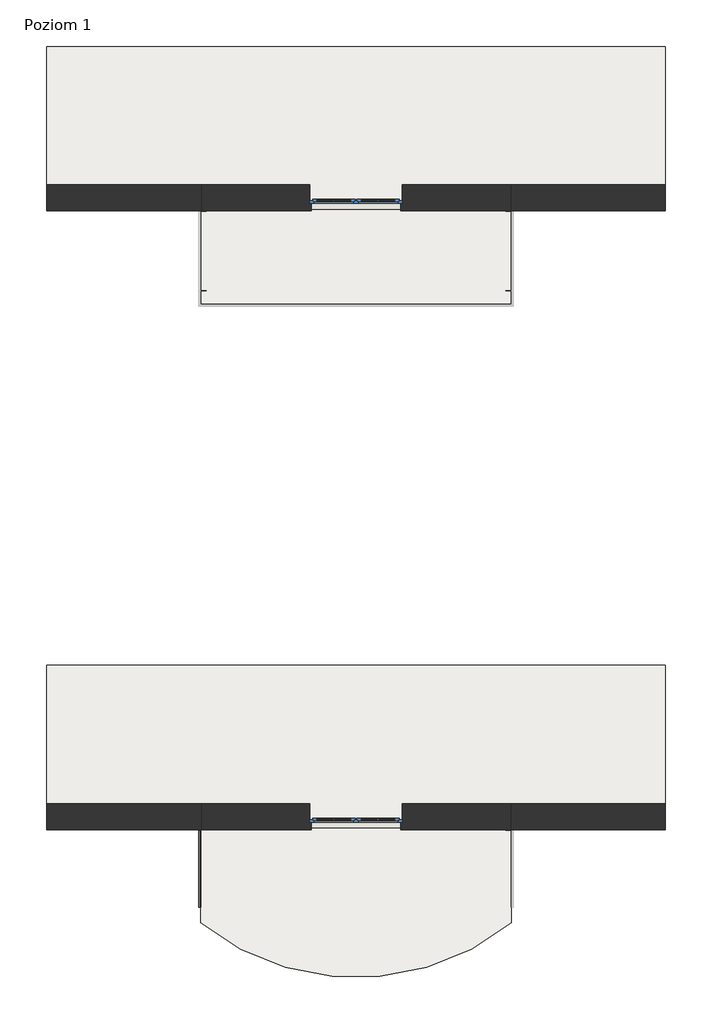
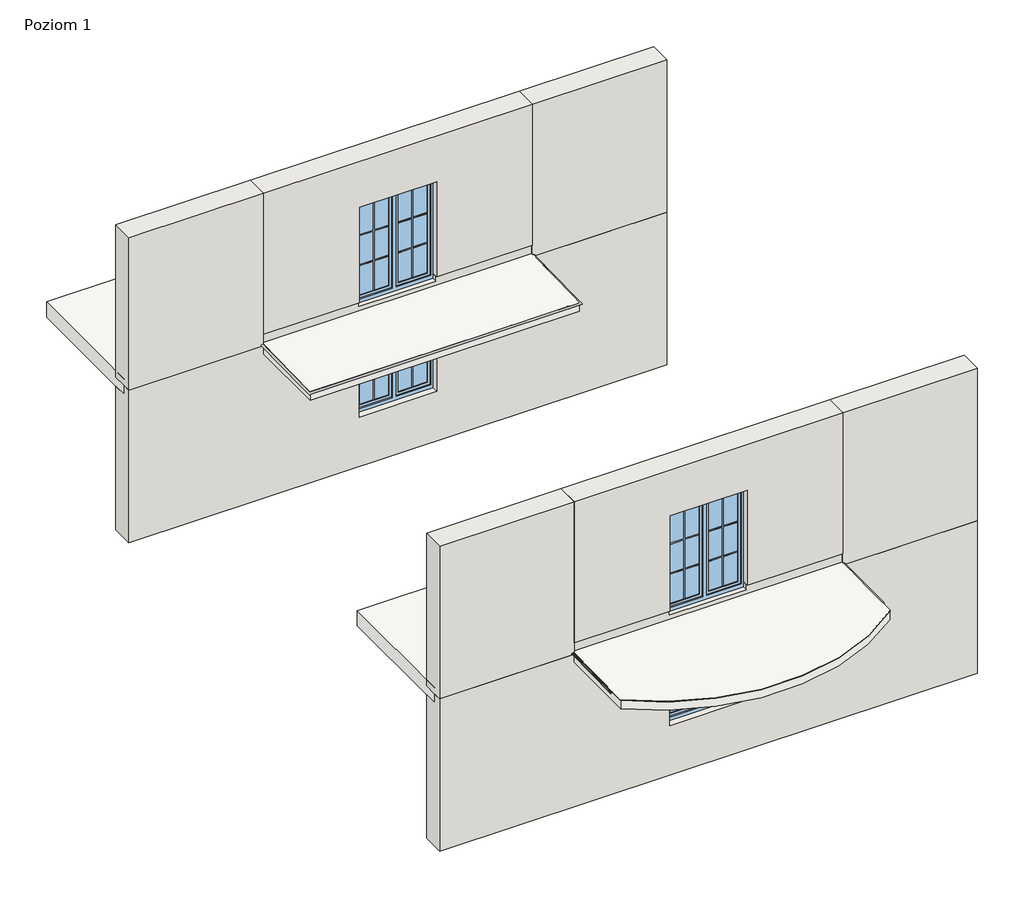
# One storey, part 1 of 3: 10 walls, 6 slabs, 4 windows, 2 proxies.
"""IFC4 building model written with IfcOpenShell, lengths in millimetres."""

from ifc_helpers import new_model, si_unit, frame, origin, place, context, project, spatial, circle_curve, ellipse_curve, faceted_brep, transform, mapped, element, save
from ifc_brep_helpers import plane_surface, cylinder_surface, advanced_brep
from components import generic_models_eb490aad, k20_d56da928, window_150x150_51b7f79a, window_150x150_14e0f4ea, window_150x200_12b14935

model = new_model("IFC4")

# Units and contexts
model_context = context("Model", 3, world=origin())
ifc_project = project(units=[si_unit("LENGTHUNIT", "METRE", prefix="MILLI")], contexts=[model_context])

# Site, building, storey
site = spatial("IfcSite", under=ifc_project)
building = spatial("IfcBuilding", under=site)
storey = spatial("IfcBuildingStorey", under=building, Name="Poziom 1", Elevation=0.0)

# Proxies
placement = place(None, origin())
generic_models_shape = generic_models_eb490aad(model_context)
element("IfcBuildingElementProxy", 1, Name="Odbojnik - OPK20 : Odbojnik - OPK20", ObjectType="Odbojnik - OPK20 : Odbojnik - OPK20", at=placement, inside=storey, context=model_context, shape_type="MappedRepresentation", body=[
    mapped(generic_models_shape, transform((-91537.1933858, 22534.66124, -111.2718009), x_axis=(0.0, 0.9999253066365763, 0.012222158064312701), y_axis=(-1.0, 0.0, 0.0), z_axis=(0.0, -0.01222215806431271, 0.9999253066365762))),
])
k20_shape = k20_d56da928(model_context)
element("IfcBuildingElementProxy", 2, Name="K20 Profil okapowy prosty : K20", ObjectType="K20 Profil okapowy prosty : K20", at=placement, inside=storey, context=model_context, shape_type="MappedRepresentation", body=[
    mapped(k20_shape, transform((-91521.1936807, 21282.6125324, -98.6569121), x_axis=(0.0, 0.9999253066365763, 0.012222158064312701), y_axis=(-1.0, 0.0, 0.0), z_axis=(0.0, -0.01222215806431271, 0.9999253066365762))),
])

# Slabs
element("IfcSlab", 3, ObjectType="Balkon - wykończenie - posadzka żywiczna drenażowa", at=placement, inside=storey, context=model_context, shape_type="Brep", body=[
    faceted_brep([(-91521.0897862, 31027.3561559, -125.0), (-91521.0897862, 31027.3561559, -114.0), (-91521.0897862, 32645.3561559, -82.0), (-91521.0897862, 32645.3561559, -93.0), (-91511.0897862, 32645.3561559, -82.0), (-86511.0897862, 32645.3561559, -82.0), (-86501.0897862, 32645.3561559, -82.0), (-86501.0897862, 32645.3561559, -93.0), (-86501.0897862, 31027.3561559, -125.0), (-86501.0897862, 31027.3561559, -114.0)], [[[0, 1, 2, 3]], [[3, 2, 4, 5, 6, 7]], [[8, 9, 1, 0]], [[7, 6, 9, 8]], [[9, 6, 5, 4, 2, 1]], [[8, 0, 3, 7]]]),
])
element("IfcSlab", 4, ObjectType="Balkon - wykończenie - posadzka żywiczna drenażowa", at=placement, inside=storey, context=model_context, shape_type="AdvancedBrep", body=[
    advanced_brep(
    [(-91521.0897862, 22645.3561559, -82.0), (-91521.0897862, 22645.3561559, -93.0), (-91521.0897862, 21032.5560009, -112.7133709), (-91521.0897862, 21032.5560009, -101.7133709), (-91511.0897862, 22645.3561559, -82.0), (-86511.0897862, 22645.3561559, -82.0), (-86501.0897862, 22645.3561559, -82.0), (-86501.0897862, 22645.3561559, -93.0), (-86501.0897862, 21032.5560009, -101.7133709), (-86501.0897862, 21032.5560009, -112.7133709)],
    [
        (0, 1),
        (1, 2),
        (2, 3),
        (3, 0),
        (0, 4),
        (4, 5),
        (5, 6),
        (6, 7),
        (7, 1),
        (6, 8),
        (8, 9),
        (9, 7),
        (3, 8, ellipse_curve(frame((-89011.0897862, 24159.8551551, -63.4881711), z_axis=(0.0, -0.01222215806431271, 0.9999253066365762), x_axis=(0.0, -0.9999253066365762, -0.012222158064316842)), 4010.2995428, 4010.0)),
        (9, 2, ellipse_curve(frame((-89011.0897862, 24159.8551551, -74.4881711), z_axis=(0.0, 0.01222215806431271, -0.9999253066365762), x_axis=(0.0, -0.9999253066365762, -0.012222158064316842)), 4010.2995428, 4010.0)),
    ],
    [
        plane_surface(frame((-91521.0897862, 20027.3561559, -125.0), z_axis=(-1.0, 0.0, 0.0), x_axis=(0.0, 0.0, 1.0))),
        plane_surface(frame((-91521.0897862, 22645.3561559, -125.0), z_axis=(0.0, 1.0, 0.0), x_axis=(0.0, 0.0, 1.0))),
        plane_surface(frame((-86501.0897862, 22645.3561559, -125.0), z_axis=(1.0, 0.0, 0.0), x_axis=(0.0, 0.0, 1.0))),
        plane_surface(frame((-89011.0897862, 21336.3561559, -98.0), z_axis=(0.0, -0.01222215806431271, 0.9999253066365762), x_axis=(0.0, 0.9999253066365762, 0.01222215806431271))),
        plane_surface(frame((-89011.0897862, 21336.3561559, -109.0), z_axis=(0.0, 0.01222215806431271, -0.9999253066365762), x_axis=(0.0, 0.9999253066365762, 0.01222215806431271))),
        cylinder_surface(frame((-89011.0897862, 24159.8551551, -429.8), z_axis=(0.0, 0.0, -1.0), x_axis=(1.0, 0.0, 0.0)), 4010.0),
    ],
    [
        (0, [[1, 2, 3, 4]]),
        (1, [[-1, 5, 6, 7, 8, 9]]),
        (2, [[-8, 10, 11, 12]]),
        (3, [[-7, -6, -5, -4, 13, -10]]),
        (4, [[-9, -12, 14, -2]]),
        (5, [[-3, -14, -11, -13]]),
    ],
),
])
element("IfcSlab", 5, ObjectType="Balkon - konstrukcja", at=placement, inside=storey, context=model_context, shape_type="Brep", body=[
    faceted_brep([(-91511.0897862, 31037.3561559, -285.0), (-91511.0897862, 32537.3561559, -285.0), (-91511.0897862, 32645.3561559, -285.0), (-86511.0897862, 32645.3561559, -285.0), (-86511.0897862, 32537.3561559, -285.0), (-86511.0897862, 31037.3561559, -285.0), (-91511.0897862, 31037.3561559, -125.0), (-91511.0897862, 32645.3561559, -93.0), (-91511.0897862, 32645.3561559, -125.0), (-86511.0897862, 32645.3561559, -93.0), (-86511.0897862, 32645.3561559, -125.0), (-86511.0897862, 31037.3561559, -125.0)], [[[0, 1, 2, 3, 4, 5]], [[2, 1, 0, 6, 7, 8]], [[3, 2, 8, 7, 9, 10]], [[0, 5, 11, 6]], [[5, 4, 3, 10, 9, 11]], [[11, 9, 7, 6]]]),
])
element("IfcSlab", 6, ObjectType="Balkon - konstrukcja", at=placement, inside=storey, context=model_context, shape_type="AdvancedBrep", body=[
    advanced_brep(
    [(-91511.0897862, 22645.3561559, -285.0), (-86511.0897862, 22645.3561559, -285.0), (-86511.0897862, 22537.3561559, -285.0), (-86511.0897862, 21037.3561559, -285.0), (-91511.0897862, 21037.3561559, -285.0), (-91511.0897862, 22537.3561559, -285.0), (-91511.0897862, 22645.3561559, -93.0), (-91511.0897862, 22645.3561559, -125.0), (-91511.0897862, 21037.3561559, -112.7300613), (-86511.0897862, 22645.3561559, -93.0), (-86511.0897862, 22645.3561559, -125.0), (-86511.0897862, 21037.3561559, -112.7300613)],
    [
        (0, 1),
        (1, 2),
        (2, 3),
        (3, 4, circle_curve(frame((-89011.0897862, 24159.8551551, -285.0), z_axis=(0.0, 0.0, -1.0), x_axis=(1.0, 0.0, 0.0)), 4000.0)),
        (4, 5),
        (5, 0),
        (6, 7),
        (7, 0),
        (4, 8),
        (8, 6),
        (6, 9),
        (9, 10),
        (10, 1),
        (9, 11),
        (11, 3),
        (8, 11, ellipse_curve(frame((-89011.0897862, 24159.8551551, -74.4171902), z_axis=(0.0, -0.012269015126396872, 0.9999247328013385), x_axis=(0.0, -0.9999247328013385, -0.012269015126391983)), 4000.3010915, 4000.0)),
    ],
    [
        plane_surface(frame((-91511.0897862, 22645.3561559, -285.0), z_axis=(0.0, 0.0, -1.0), x_axis=(0.0, 1.0, 0.0))),
        plane_surface(frame((-91511.0897862, 20037.3561559, -285.0), z_axis=(-1.0, 0.0, 0.0), x_axis=(0.0, 0.0, 1.0))),
        plane_surface(frame((-91511.0897862, 22645.3561559, -285.0), z_axis=(0.0, 1.0, 0.0), x_axis=(0.0, 0.0, 1.0))),
        plane_surface(frame((-86511.0897862, 22645.3561559, -285.0), z_axis=(1.0, 0.0, 0.0), x_axis=(0.0, 0.0, 1.0))),
        plane_surface(frame((-89011.0897862, 21341.3561559, -109.0), z_axis=(0.0, -0.012269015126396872, 0.9999247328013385), x_axis=(0.0, 0.9999247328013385, 0.012269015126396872))),
        cylinder_surface(frame((-89011.0897862, 24159.8551551, -589.8), z_axis=(0.0, 0.0, -1.0), x_axis=(1.0, 0.0, 0.0)), 4000.0),
    ],
    [
        (0, [[1, 2, 3, 4, 5, 6]]),
        (1, [[7, 8, -6, -5, 9, 10]]),
        (2, [[-1, -8, -7, 11, 12, 13]]),
        (3, [[-13, -12, 14, 15, -3, -2]]),
        (4, [[-11, -10, 16, -14]]),
        (5, [[-4, -15, -16, -9]]),
    ],
),
])
element("IfcSlab", 7, ObjectType="Strop", at=placement, inside=storey, context=model_context, shape_type="Brep", body=[
    faceted_brep([(-84011.0897862, 32692.3561559, -300.0), (-94011.0897862, 32692.3561559, -300.0), (-94011.0897862, 32957.3561559, -300.0), (-94011.0897862, 35192.3561559, -300.0), (-84011.0897862, 35192.3561559, -300.0), (-84011.0897862, 32957.3561559, -300.0), (-84011.0897862, 32692.3561559, 0.0), (-84011.0897862, 35192.3561559, 0.0), (-94011.0897862, 35192.3561559, 0.0), (-94011.0897862, 32692.3561559, 0.0), (-91511.0897862, 32692.3561559, 0.0), (-89761.0897862, 32692.3561559, 0.0), (-88261.0897862, 32692.3561559, 0.0), (-86511.0897862, 32692.3561559, 0.0), (-84011.0897862, 32692.3561559, -125.0), (-94011.0897862, 32692.3561559, -125.0)], [[[0, 1, 2, 3, 4, 5]], [[6, 7, 8, 9, 10, 11, 12, 13]], [[1, 0, 14, 6, 13, 12, 11, 10, 9, 15]], [[3, 2, 1, 15, 9, 8]], [[4, 3, 8, 7]], [[0, 5, 4, 7, 6, 14]]]),
])
element("IfcSlab", 8, ObjectType="Strop", at=placement, inside=storey, context=model_context, shape_type="Brep", body=[
    faceted_brep([(-84011.0897862, 22692.3561559, -300.0), (-94011.0897862, 22692.3561559, -300.0), (-94011.0897862, 22957.3561559, -300.0), (-94011.0897862, 25192.3561559, -300.0), (-84011.0897862, 25192.3561559, -300.0), (-84011.0897862, 22957.3561559, -300.0), (-84011.0897862, 22692.3561559, 0.0), (-84011.0897862, 25192.3561559, 0.0), (-94011.0897862, 25192.3561559, 0.0), (-94011.0897862, 22692.3561559, 0.0), (-91511.0897862, 22692.3561559, 0.0), (-89761.0897862, 22692.3561559, 0.0), (-88261.0897862, 22692.3561559, 0.0), (-86511.0897862, 22692.3561559, 0.0), (-84011.0897862, 22692.3561559, -125.0), (-94011.0897862, 22692.3561559, -125.0)], [[[0, 1, 2, 3, 4, 5]], [[6, 7, 8, 9, 10, 11, 12, 13]], [[1, 0, 14, 6, 13, 12, 11, 10, 9, 15]], [[3, 2, 1, 15, 9, 8]], [[4, 3, 8, 7]], [[0, 5, 4, 7, 6, 14]]]),
])

# Walls
element("IfcWall", 9, ObjectType="Porotherm P+W 25 + o15 + t", at=placement, inside=storey, context=model_context, shape_type="Brep", body=[
    faceted_brep([(-94011.0897862, 32537.3561559, -3125.0), (-84011.0897862, 32537.3561559, -3125.0), (-84011.0897862, 32537.3561559, -125.0), (-86511.0897862, 32537.3561559, -125.0), (-86511.0897862, 32537.3561559, -285.0), (-91511.0897862, 32537.3561559, -285.0), (-91511.0897862, 32537.3561559, -125.0), (-94011.0897862, 32537.3561559, -125.0), (-88291.0897862, 32537.3561559, -680.0), (-88291.0897862, 32537.3561559, -2150.0), (-89731.0897862, 32537.3561559, -2150.0), (-89731.0897862, 32537.3561559, -680.0), (-84011.0897862, 32957.3561559, -3125.0), (-94011.0897862, 32957.3561559, -3125.0), (-94011.0897862, 32957.3561559, -300.0), (-84011.0897862, 32957.3561559, -300.0), (-88261.0897862, 32957.3561559, -2150.0), (-88261.0897862, 32957.3561559, -650.0), (-89761.0897862, 32957.3561559, -650.0), (-89761.0897862, 32957.3561559, -2150.0), (-84011.0897862, 32692.3561559, -300.0), (-84011.0897862, 32692.3561559, -125.0), (-86511.0897862, 32692.3561559, -125.0), (-91511.0897862, 32692.3561559, -125.0), (-94011.0897862, 32692.3561559, -125.0), (-91511.0897862, 32645.3561559, -125.0), (-86511.0897862, 32645.3561559, -125.0), (-94011.0897862, 32692.3561559, -300.0), (-88261.0897862, 32657.3561559, -650.0), (-88261.0897862, 32657.3561559, -2150.0), (-88291.0897862, 32657.3561559, -680.0), (-88291.0897862, 32657.3561559, -2150.0), (-86511.0897862, 32645.3561559, -285.0), (-91511.0897862, 32645.3561559, -285.0), (-89761.0897862, 32657.3561559, -650.0), (-89761.0897862, 32657.3561559, -2150.0), (-89731.0897862, 32657.3561559, -2150.0), (-89731.0897862, 32657.3561559, -680.0)], [[[0, 1, 2, 3, 4, 5, 6, 7], [8, 9, 10, 11]], [[12, 13, 14, 15], [16, 17, 18, 19]], [[1, 0, 13, 12]], [[2, 1, 12, 15, 20, 21]], [[2, 21, 22, 23, 24, 7, 6, 25, 26, 3]], [[0, 7, 24, 27, 14, 13]], [[28, 17, 16, 29]], [[8, 30, 31, 9]], [[27, 20, 15, 14]], [[20, 27, 24, 23, 22, 21]], [[32, 33, 5, 4]], [[5, 33, 25, 6]], [[33, 32, 26, 25]], [[32, 4, 3, 26]], [[17, 28, 34, 18]], [[29, 16, 19, 35, 36, 10, 9, 31]], [[34, 28, 29, 31, 30, 37, 36, 35]], [[34, 35, 19, 18]], [[30, 8, 11, 37]], [[10, 36, 37, 11]]]),
])
element("IfcWall", 10, ObjectType="Porotherm P+W 25 + o15 + t", at=placement, inside=storey, context=model_context, shape_type="Brep", body=[
    faceted_brep([(-94011.0897862, 32537.3561559, -125.0), (-91511.0897862, 32537.3561559, -125.0), (-91511.0897862, 32537.3561559, 100.0), (-91511.0897862, 32537.3561559, 2875.0), (-94011.0897862, 32537.3561559, 2875.0), (-94011.0897862, 32957.3561559, -125.0), (-94011.0897862, 32957.3561559, 2875.0), (-91511.0897862, 32957.3561559, 2875.0), (-91511.0897862, 32957.3561559, 100.0), (-91511.0897862, 32957.3561559, 0.0), (-91511.0897862, 32957.3561559, -125.0), (-94011.0897862, 32692.3561559, -125.0), (-91511.0897862, 32692.3561559, -125.0), (-91511.0897862, 32645.3561559, -125.0)], [[[0, 1, 2, 3, 4]], [[5, 6, 7, 8, 9, 10]], [[1, 0, 11, 5, 10, 12, 13]], [[4, 3, 7, 6]], [[0, 4, 6, 5, 11]], [[1, 13, 12, 10, 9, 8, 7, 3, 2]]]),
])
element("IfcWall", 11, ObjectType="Porotherm P+W 25 + o15 + t", at=placement, inside=storey, context=model_context, shape_type="Brep", body=[
    faceted_brep([(-86511.0897862, 32537.3561559, 2875.0), (-86511.0897862, 32537.3561559, 100.0), (-86511.0897862, 32537.3561559, -125.0), (-84011.0897862, 32537.3561559, -125.0), (-84011.0897862, 32537.3561559, 2875.0), (-86511.0897862, 32957.3561559, -125.0), (-86511.0897862, 32957.3561559, 0.0), (-86511.0897862, 32957.3561559, 100.0), (-86511.0897862, 32957.3561559, 2875.0), (-84011.0897862, 32957.3561559, 2875.0), (-84011.0897862, 32957.3561559, -125.0), (-86511.0897862, 32645.3561559, -125.0), (-86511.0897862, 32692.3561559, -125.0), (-84011.0897862, 32692.3561559, -125.0)], [[[0, 1, 2, 3, 4]], [[5, 6, 7, 8, 9, 10]], [[3, 2, 11, 12, 5, 10, 13]], [[4, 3, 13, 10, 9]], [[0, 4, 9, 8]], [[0, 8, 7, 6, 5, 12, 11, 2, 1]]]),
])
element("IfcWall", 12, ObjectType="Porotherm P+W 25 + o12 + t", at=placement, inside=storey, context=model_context, shape_type="Brep", body=[
    faceted_brep([(-86511.0897862, 32567.3561559, 100.0), (-88291.0897862, 32567.3561559, 100.0), (-88291.0897862, 32567.3561559, 0.0), (-89731.0897862, 32567.3561559, 0.0), (-89731.0897862, 32567.3561559, 100.0), (-91511.0897862, 32567.3561559, 100.0), (-91511.0897862, 32567.3561559, -83.5426452), (-86511.0897862, 32567.3561559, -83.5426452), (-91511.0897862, 32957.3561559, 0.0), (-91511.0897862, 32957.3561559, 100.0), (-89761.0897862, 32957.3561559, 100.0), (-89761.0897862, 32957.3561559, 0.0), (-86511.0897862, 32957.3561559, 100.0), (-86511.0897862, 32957.3561559, 0.0), (-88261.0897862, 32957.3561559, 0.0), (-88261.0897862, 32957.3561559, 100.0), (-91511.0897862, 32692.3561559, -125.0), (-86511.0897862, 32692.3561559, -125.0), (-86511.0897862, 32645.3561559, -125.0), (-91511.0897862, 32645.3561559, -125.0), (-86511.0897862, 32645.3561559, -82.0), (-86511.0897862, 32645.3561559, -93.0), (-86511.0897862, 32692.3561559, 0.0), (-88261.0897862, 32657.3561559, 100.0), (-88291.0897862, 32657.3561559, 100.0), (-89731.0897862, 32657.3561559, 100.0), (-89761.0897862, 32657.3561559, 100.0), (-91511.0897862, 32692.3561559, 0.0), (-91511.0897862, 32645.3561559, -93.0), (-91511.0897862, 32645.3561559, -82.0), (-89761.0897862, 32692.3561559, 0.0), (-88261.0897862, 32692.3561559, 0.0), (-89761.0897862, 32657.3561559, 0.0), (-89731.0897862, 32657.3561559, 0.0), (-88291.0897862, 32657.3561559, 0.0), (-88261.0897862, 32657.3561559, 0.0)], [[[0, 1, 2, 3, 4, 5, 6, 7]], [[8, 9, 10, 11]], [[12, 13, 14, 15]], [[16, 17, 18, 19]], [[12, 0, 7, 20, 21, 18, 17, 22, 13]], [[0, 12, 15, 23, 24, 1]], [[9, 5, 4, 25, 26, 10]], [[5, 9, 8, 27, 16, 19, 28, 29, 6]], [[8, 11, 30, 27]], [[13, 22, 31, 14]], [[17, 16, 27, 30, 31, 22]], [[19, 18, 21, 20, 29, 28]], [[29, 20, 7, 6]], [[32, 33, 3, 2, 34, 35, 31, 30]], [[33, 32, 26, 25]], [[35, 34, 24, 23]], [[35, 23, 15, 14, 31]], [[26, 32, 30, 11, 10]], [[34, 2, 1, 24]], [[3, 33, 25, 4]]]),
])
element("IfcWall", 13, ObjectType="Porotherm P+W 25 + o15 + t", at=placement, inside=storey, context=model_context, shape_type="Brep", body=[
    faceted_brep([(-86511.0897862, 32537.3561559, 100.0), (-86511.0897862, 32537.3561559, 2875.0), (-91511.0897862, 32537.3561559, 2875.0), (-91511.0897862, 32537.3561559, 100.0), (-89731.0897862, 32537.3561559, 100.0), (-89731.0897862, 32537.3561559, 1970.0), (-88291.0897862, 32537.3561559, 1970.0), (-88291.0897862, 32537.3561559, 100.0), (-86511.0897862, 32957.3561559, 2875.0), (-86511.0897862, 32957.3561559, 100.0), (-88261.0897862, 32957.3561559, 100.0), (-88261.0897862, 32957.3561559, 2000.0), (-89761.0897862, 32957.3561559, 2000.0), (-89761.0897862, 32957.3561559, 100.0), (-91511.0897862, 32957.3561559, 100.0), (-91511.0897862, 32957.3561559, 2875.0), (-91511.0897862, 32567.3561559, 100.0), (-89761.0897862, 32657.3561559, 100.0), (-89731.0897862, 32657.3561559, 100.0), (-89731.0897862, 32567.3561559, 100.0), (-86511.0897862, 32567.3561559, 100.0), (-88291.0897862, 32567.3561559, 100.0), (-88291.0897862, 32657.3561559, 100.0), (-88261.0897862, 32657.3561559, 100.0), (-88261.0897862, 32657.3561559, 2000.0), (-88291.0897862, 32657.3561559, 1970.0), (-89761.0897862, 32657.3561559, 2000.0), (-89731.0897862, 32657.3561559, 1970.0)], [[[0, 1, 2, 3, 4, 5, 6, 7]], [[8, 9, 10, 11, 12, 13, 14, 15]], [[3, 16, 14, 13, 17, 18, 19, 4]], [[9, 20, 0, 7, 21, 22, 23, 10]], [[1, 0, 20, 9, 8]], [[2, 1, 8, 15]], [[3, 2, 15, 14, 16]], [[24, 11, 10, 23]], [[6, 25, 22, 21, 7]], [[26, 12, 11, 24]], [[26, 24, 23, 22, 25, 27, 18, 17]], [[12, 26, 17, 13]], [[27, 25, 6, 5]], [[27, 5, 4, 19, 18]]]),
])
element("IfcWall", 14, ObjectType="Porotherm P+W 25 + o15 + t", at=placement, inside=storey, context=model_context, shape_type="Brep", body=[
    faceted_brep([(-94011.0897862, 22537.3561559, -3125.0), (-84011.0897862, 22537.3561559, -3125.0), (-84011.0897862, 22537.3561559, -125.0), (-86511.0897862, 22537.3561559, -125.0), (-86511.0897862, 22537.3561559, -285.0), (-91511.0897862, 22537.3561559, -285.0), (-91511.0897862, 22537.3561559, -125.0), (-94011.0897862, 22537.3561559, -125.0), (-88291.0897862, 22537.3561559, -680.0), (-88291.0897862, 22537.3561559, -2150.0), (-89731.0897862, 22537.3561559, -2150.0), (-89731.0897862, 22537.3561559, -680.0), (-84011.0897862, 22957.3561559, -3125.0), (-94011.0897862, 22957.3561559, -3125.0), (-94011.0897862, 22957.3561559, -300.0), (-84011.0897862, 22957.3561559, -300.0), (-88261.0897862, 22957.3561559, -2150.0), (-88261.0897862, 22957.3561559, -650.0), (-89761.0897862, 22957.3561559, -650.0), (-89761.0897862, 22957.3561559, -2150.0), (-84011.0897862, 22692.3561559, -300.0), (-84011.0897862, 22692.3561559, -125.0), (-86511.0897862, 22692.3561559, -125.0), (-91511.0897862, 22692.3561559, -125.0), (-94011.0897862, 22692.3561559, -125.0), (-91511.0897862, 22645.3561559, -125.0), (-86511.0897862, 22645.3561559, -125.0), (-94011.0897862, 22692.3561559, -300.0), (-88261.0897862, 22657.3561559, -650.0), (-88261.0897862, 22657.3561559, -2150.0), (-88291.0897862, 22657.3561559, -680.0), (-88291.0897862, 22657.3561559, -2150.0), (-86511.0897862, 22645.3561559, -285.0), (-91511.0897862, 22645.3561559, -285.0), (-89761.0897862, 22657.3561559, -650.0), (-89761.0897862, 22657.3561559, -2150.0), (-89731.0897862, 22657.3561559, -2150.0), (-89731.0897862, 22657.3561559, -680.0)], [[[0, 1, 2, 3, 4, 5, 6, 7], [8, 9, 10, 11]], [[12, 13, 14, 15], [16, 17, 18, 19]], [[1, 0, 13, 12]], [[2, 1, 12, 15, 20, 21]], [[2, 21, 22, 23, 24, 7, 6, 25, 26, 3]], [[0, 7, 24, 27, 14, 13]], [[28, 17, 16, 29]], [[8, 30, 31, 9]], [[27, 20, 15, 14]], [[20, 27, 24, 23, 22, 21]], [[32, 33, 5, 4]], [[5, 33, 25, 6]], [[33, 32, 26, 25]], [[32, 4, 3, 26]], [[17, 28, 34, 18]], [[29, 16, 19, 35, 36, 10, 9, 31]], [[34, 28, 29, 31, 30, 37, 36, 35]], [[34, 35, 19, 18]], [[30, 8, 11, 37]], [[10, 36, 37, 11]]]),
])
element("IfcWall", 15, ObjectType="Porotherm P+W 25 + o15 + t", at=placement, inside=storey, context=model_context, shape_type="Brep", body=[
    faceted_brep([(-94011.0897862, 22537.3561559, -125.0), (-91511.0897862, 22537.3561559, -125.0), (-91511.0897862, 22537.3561559, 100.0), (-91511.0897862, 22537.3561559, 2875.0), (-94011.0897862, 22537.3561559, 2875.0), (-94011.0897862, 22957.3561559, -125.0), (-94011.0897862, 22957.3561559, 2875.0), (-91511.0897862, 22957.3561559, 2875.0), (-91511.0897862, 22957.3561559, 100.0), (-91511.0897862, 22957.3561559, 0.0), (-91511.0897862, 22957.3561559, -125.0), (-94011.0897862, 22692.3561559, -125.0), (-91511.0897862, 22692.3561559, -125.0), (-91511.0897862, 22645.3561559, -125.0)], [[[0, 1, 2, 3, 4]], [[5, 6, 7, 8, 9, 10]], [[1, 0, 11, 5, 10, 12, 13]], [[4, 3, 7, 6]], [[0, 4, 6, 5, 11]], [[1, 13, 12, 10, 9, 8, 7, 3, 2]]]),
])
element("IfcWall", 16, ObjectType="Porotherm P+W 25 + o15 + t", at=placement, inside=storey, context=model_context, shape_type="Brep", body=[
    faceted_brep([(-86511.0897862, 22537.3561559, 2875.0), (-86511.0897862, 22537.3561559, 100.0), (-86511.0897862, 22537.3561559, -125.0), (-84011.0897862, 22537.3561559, -125.0), (-84011.0897862, 22537.3561559, 2875.0), (-86511.0897862, 22957.3561559, -125.0), (-86511.0897862, 22957.3561559, 0.0), (-86511.0897862, 22957.3561559, 100.0), (-86511.0897862, 22957.3561559, 2875.0), (-84011.0897862, 22957.3561559, 2875.0), (-84011.0897862, 22957.3561559, -125.0), (-86511.0897862, 22645.3561559, -125.0), (-86511.0897862, 22692.3561559, -125.0), (-84011.0897862, 22692.3561559, -125.0)], [[[0, 1, 2, 3, 4]], [[5, 6, 7, 8, 9, 10]], [[3, 2, 11, 12, 5, 10, 13]], [[4, 3, 13, 10, 9]], [[0, 4, 9, 8]], [[0, 8, 7, 6, 5, 12, 11, 2, 1]]]),
])
element("IfcWall", 17, ObjectType="Porotherm P+W 25 + o12 + t", at=placement, inside=storey, context=model_context, shape_type="Brep", body=[
    faceted_brep([(-86511.0897862, 22567.3561559, 100.0), (-88291.0897862, 22567.3561559, 100.0), (-88291.0897862, 22567.3561559, 0.0), (-89731.0897862, 22567.3561559, 0.0), (-89731.0897862, 22567.3561559, 100.0), (-91511.0897862, 22567.3561559, 100.0), (-91511.0897862, 22567.3561559, -82.9533995), (-86511.0897862, 22567.3561559, -82.9533995), (-86511.0897862, 22957.3561559, 100.0), (-86511.0897862, 22957.3561559, 0.0), (-88261.0897862, 22957.3561559, 0.0), (-88261.0897862, 22957.3561559, 100.0), (-91511.0897862, 22957.3561559, 0.0), (-91511.0897862, 22957.3561559, 100.0), (-89761.0897862, 22957.3561559, 100.0), (-89761.0897862, 22957.3561559, 0.0), (-91511.0897862, 22692.3561559, -125.0), (-86511.0897862, 22692.3561559, -125.0), (-86511.0897862, 22645.3561559, -125.0), (-91511.0897862, 22645.3561559, -125.0), (-86511.0897862, 22645.3561559, -82.0), (-86511.0897862, 22645.3561559, -93.0), (-86511.0897862, 22692.3561559, 0.0), (-88261.0897862, 22657.3561559, 100.0), (-88291.0897862, 22657.3561559, 100.0), (-89731.0897862, 22657.3561559, 100.0), (-89761.0897862, 22657.3561559, 100.0), (-91511.0897862, 22692.3561559, 0.0), (-91511.0897862, 22645.3561559, -93.0), (-91511.0897862, 22645.3561559, -82.0), (-89761.0897862, 22692.3561559, 0.0), (-88261.0897862, 22692.3561559, 0.0), (-89761.0897862, 22657.3561559, 0.0), (-89731.0897862, 22657.3561559, 0.0), (-88291.0897862, 22657.3561559, 0.0), (-88261.0897862, 22657.3561559, 0.0)], [[[0, 1, 2, 3, 4, 5, 6, 7]], [[8, 9, 10, 11]], [[12, 13, 14, 15]], [[16, 17, 18, 19]], [[8, 0, 7, 20, 21, 18, 17, 22, 9]], [[0, 8, 11, 23, 24, 1]], [[13, 5, 4, 25, 26, 14]], [[5, 13, 12, 27, 16, 19, 28, 29, 6]], [[12, 15, 30, 27]], [[9, 22, 31, 10]], [[17, 16, 27, 30, 31, 22]], [[19, 18, 21, 20, 29, 28]], [[29, 20, 7, 6]], [[32, 33, 3, 2, 34, 35, 31, 30]], [[33, 32, 26, 25]], [[35, 34, 24, 23]], [[35, 23, 11, 10, 31]], [[26, 32, 30, 15, 14]], [[34, 2, 1, 24]], [[3, 33, 25, 4]]]),
])
element("IfcWall", 18, ObjectType="Porotherm P+W 25 + o15 + t", at=placement, inside=storey, context=model_context, shape_type="Brep", body=[
    faceted_brep([(-86511.0897862, 22537.3561559, 100.0), (-86511.0897862, 22537.3561559, 2875.0), (-91511.0897862, 22537.3561559, 2875.0), (-91511.0897862, 22537.3561559, 100.0), (-89731.0897862, 22537.3561559, 100.0), (-89731.0897862, 22537.3561559, 1970.0), (-88291.0897862, 22537.3561559, 1970.0), (-88291.0897862, 22537.3561559, 100.0), (-86511.0897862, 22957.3561559, 2875.0), (-86511.0897862, 22957.3561559, 100.0), (-88261.0897862, 22957.3561559, 100.0), (-88261.0897862, 22957.3561559, 2000.0), (-89761.0897862, 22957.3561559, 2000.0), (-89761.0897862, 22957.3561559, 100.0), (-91511.0897862, 22957.3561559, 100.0), (-91511.0897862, 22957.3561559, 2875.0), (-91511.0897862, 22567.3561559, 100.0), (-89761.0897862, 22657.3561559, 100.0), (-89731.0897862, 22657.3561559, 100.0), (-89731.0897862, 22567.3561559, 100.0), (-86511.0897862, 22567.3561559, 100.0), (-88291.0897862, 22567.3561559, 100.0), (-88291.0897862, 22657.3561559, 100.0), (-88261.0897862, 22657.3561559, 100.0), (-88261.0897862, 22657.3561559, 2000.0), (-88291.0897862, 22657.3561559, 1970.0), (-89761.0897862, 22657.3561559, 2000.0), (-89731.0897862, 22657.3561559, 1970.0)], [[[0, 1, 2, 3, 4, 5, 6, 7]], [[8, 9, 10, 11, 12, 13, 14, 15]], [[3, 16, 14, 13, 17, 18, 19, 4]], [[9, 20, 0, 7, 21, 22, 23, 10]], [[1, 0, 20, 9, 8]], [[2, 1, 8, 15]], [[3, 2, 15, 14, 16]], [[24, 11, 10, 23]], [[6, 25, 22, 21, 7]], [[26, 12, 11, 24]], [[26, 24, 23, 22, 25, 27, 18, 17]], [[12, 26, 17, 13]], [[27, 25, 6, 5]], [[27, 5, 4, 19, 18]]]),
])

# Windows
window_150x150_shape = window_150x150_51b7f79a(model_context)
element("IfcWindow", 19, ObjectType="OKNO_2X_W_SZ : 150x150", at=placement, inside=storey, context=model_context, shape_type="MappedRepresentation", body=[
    mapped(window_150x150_shape, transform((-89011.0897862, 32747.3561559, -3000.0), x_axis=(-1.0, 0.0, 0.0), y_axis=(0.0, -1.0, 0.0), z_axis=(0.0, 0.0, 1.0))),
])
window_150x150_2_shape = window_150x150_14e0f4ea(model_context)
element("IfcWindow", 20, ObjectType="OKNO_2X_W_SZ : 150x150", at=placement, inside=storey, context=model_context, shape_type="MappedRepresentation", body=[
    mapped(window_150x150_2_shape, transform((-89011.0897862, 22747.3561559, -3000.0), x_axis=(-1.0, 0.0, 0.0), y_axis=(0.0, -1.0, 0.0), z_axis=(0.0, 0.0, 1.0))),
])
window_150x200_shape = window_150x200_12b14935(model_context)
element("IfcWindow", 21, ObjectType="OKNO_2X_W_SZ : 150x200", at=placement, inside=storey, context=model_context, shape_type="MappedRepresentation", body=[
    mapped(window_150x200_shape, transform((-89011.0897862, 32747.3561559, -850.0), x_axis=(-1.0, 0.0, 0.0), y_axis=(0.0, -1.0, 0.0), z_axis=(0.0, 0.0, 1.0))),
])
element("IfcWindow", 22, ObjectType="OKNO_2X_W_SZ : 150x200", at=placement, inside=storey, context=model_context, shape_type="MappedRepresentation", body=[
    mapped(window_150x200_shape, transform((-89011.0897862, 22747.3561559, -850.0), x_axis=(-1.0, 0.0, 0.0), y_axis=(0.0, -1.0, 0.0), z_axis=(0.0, 0.0, 1.0))),
])

save(model, "model.ifc")
